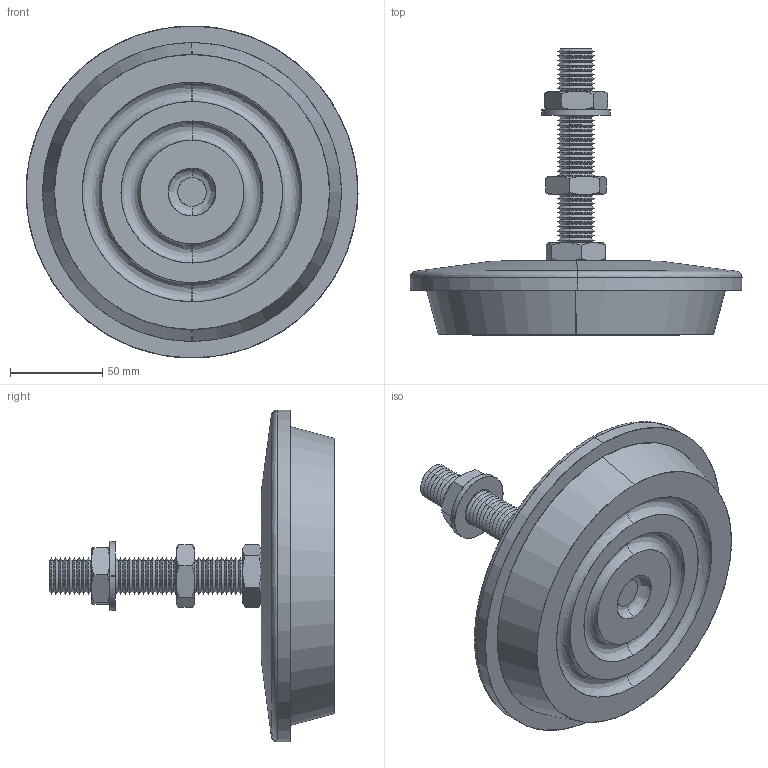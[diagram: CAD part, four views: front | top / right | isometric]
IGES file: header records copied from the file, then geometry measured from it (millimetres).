
Start section: SolidWorks IGES file using analytic representation for surfaces
Global section: file name: C:\Documents and Settings\IANO\Desktop\Temp File\Process pending\EXISTING\34930_v2\34930_v2_20170626_IGES\34930.W0180.igs; native system: SolidWorks 2009; preprocessor: SolidWorks 2009; author: IANO; date: 170626.131505; units: millimetre
Bounding box: 179.99 x 155 x 179.99 mm (x, y, z)
Surface area: 133826.4 mm2 (no closed solid volume)
Topology: 0 solids, 0 shells, 320 faces, 3144 edges, 3144 vertices
Faces by surface type: revolution 276, bspline 44
